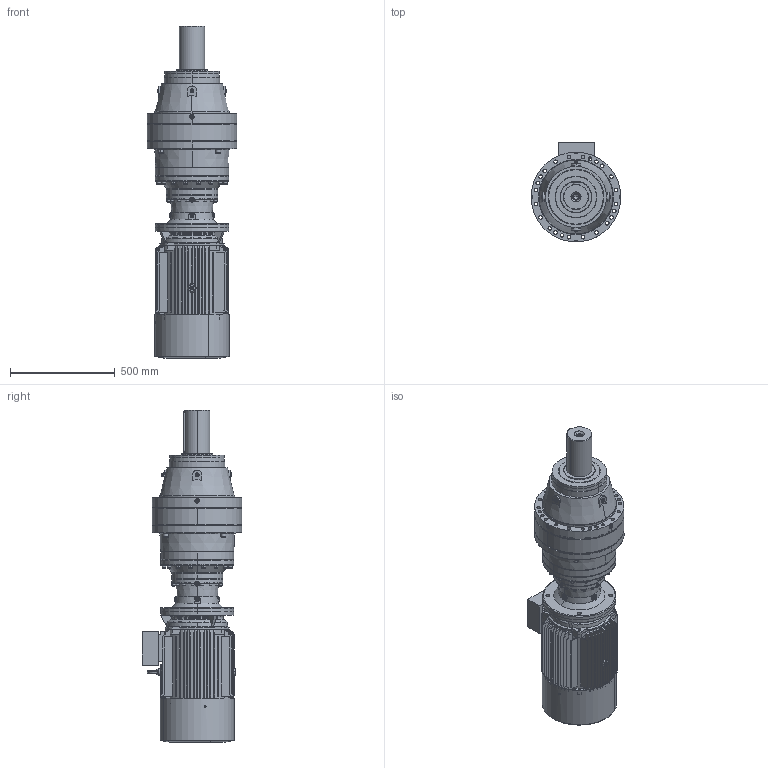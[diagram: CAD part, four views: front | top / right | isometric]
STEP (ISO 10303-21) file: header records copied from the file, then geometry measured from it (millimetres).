
FILE_DESCRIPTION (( 'STEP AP203' ), '1' );
FILE_NAME ('PVL-2903L-HS180L-4.STEP', '2019-05-27T09:05:22', ( '' ), ( '' ), 'SwSTEP 2.0', 'SolidWorks 2012', '' );
FILE_SCHEMA (( 'CONFIG_CONTROL_DESIGN' ));
Products named in the file (15): M3-180L-FF-B5; M3-HS180L-FF-B5; PVL-2903L-HS180L-4; Y2-180-4.6.8+ª-¯ª­-È®+_-++ñ; Y2-180-4.6.8-ª+---®+_-++ñ; Y2-180C++A+¦-¯ª¦+¦_-++ñ; PNL_2903L_0_0_A18_B5_ML49A_FL15A_0_0_0_0_0_0_0_0_0_0_0_M1; Eyebolts GB_GB_FASTENER_SCREWS_FRS M12; Y2-180LB5+À+¿_-++ñ; Y2-180+¦i-_-++ñ; 15180B5_Varsayìlan; FL15A_Varsayìlan; ML49A_Varsayìlan; EK2903L_Varsayìlan; P29_Varsayìlan
Assembly tree (14 placements, depth 4):
  PVL-2903L-HS180L-4
    PNL_2903L_0_0_A18_B5_ML49A_FL15A_0_0_0_0_0_0_0_0_0_0_0_M1
      P29_Varsayìlan
      15180B5_Varsayìlan
      ML49A_Varsayìlan
      EK2903L_Varsayìlan
      FL15A_Varsayìlan
    M3-HS180L-FF-B5
      M3-180L-FF-B5
        Eyebolts GB_GB_FASTENER_SCREWS_FRS M12
        Y2-180LB5+À+¿_-++ñ
        Y2-180+¦i-_-++ñ
        Y2-180-4.6.8-ª+---®+_-++ñ
        Y2-180C++A+¦-¯ª¦+¦_-++ñ
        Y2-180-4.6.8+ª-¯ª­-È®+_-++ñ
Bounding box: 428 x 477.59 x 1586 mm (x, y, z)
Volume: 75706123.1 mm3; surface area: 5058000.7 mm2
Topology: 16 solids, 16 shells, 3020 faces, 7993 edges, 5060 vertices
Faces by surface type: plane 1192, cylinder 1013, cone 400, bspline 383, torus 32
Entity records: 113042 total; most frequent: CARTESIAN_POINT 38403, ORIENTED_EDGE 15774, DIRECTION 15000, EDGE_CURVE 7887, AXIS2_PLACEMENT_3D 5888, VERTEX_POINT 5060, EDGE_LOOP 3465, CIRCLE 3231
